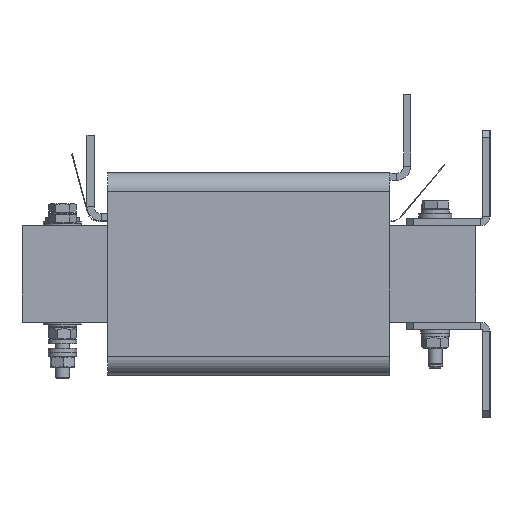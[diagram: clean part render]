
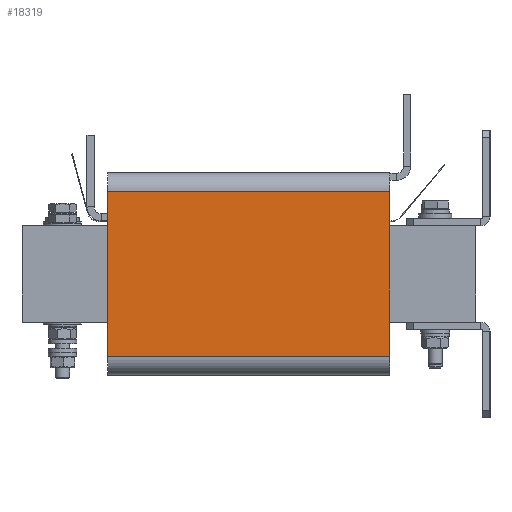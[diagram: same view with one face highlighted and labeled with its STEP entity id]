
A CAD part, left-side view. The second image highlights one B-rep face of the part: STEP entity #18319.
In plain terms, the highlighted planar face has unit normal (-1, 0, 0).
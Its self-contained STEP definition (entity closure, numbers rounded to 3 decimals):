
#1556=LINE('',#28260,#3100);
#1564=LINE('',#28285,#3108);
#1580=LINE('',#28334,#3124);
#1581=LINE('',#28336,#3125);
#3100=VECTOR('',#22990,10.);
#3108=VECTOR('',#23008,10.);
#3124=VECTOR('',#23050,10.);
#3125=VECTOR('',#23053,10.);
#4166=PLANE('',#19669);
#5357=FACE_OUTER_BOUND('',#6595,.T.);
#6595=EDGE_LOOP('',(#14579,#14580,#14581,#14582));
#8590=VERTEX_POINT('',#28257);
#8591=VERTEX_POINT('',#28259);
#8602=VERTEX_POINT('',#28282);
#8603=VERTEX_POINT('',#28284);
#10702=EDGE_CURVE('',#8590,#8591,#1556,.T.);
#10714=EDGE_CURVE('',#8602,#8603,#1564,.T.);
#10740=EDGE_CURVE('',#8603,#8590,#1580,.T.);
#10741=EDGE_CURVE('',#8602,#8591,#1581,.T.);
#14579=ORIENTED_EDGE('',*,*,#10740,.F.);
#14580=ORIENTED_EDGE('',*,*,#10714,.F.);
#14581=ORIENTED_EDGE('',*,*,#10741,.T.);
#14582=ORIENTED_EDGE('',*,*,#10702,.F.);
#18319=ADVANCED_FACE('',(#5357),#4166,.T.);
#19669=AXIS2_PLACEMENT_3D('',#28335,#23051,#23052);
#22990=DIRECTION('',(0.,0.,-1.));
#23008=DIRECTION('',(0.,0.,1.));
#23050=DIRECTION('',(0.,-1.,0.));
#23051=DIRECTION('center_axis',(-1.,0.,0.));
#23052=DIRECTION('ref_axis',(0.,0.,1.));
#23053=DIRECTION('',(0.,-1.,0.));
#28257=CARTESIAN_POINT('',(-119.3,-59.25,34.64));
#28259=CARTESIAN_POINT('',(-119.3,-59.25,-34.64));
#28260=CARTESIAN_POINT('',(-119.3,-59.25,34.64));
#28282=CARTESIAN_POINT('',(-119.3,59.25,-34.64));
#28284=CARTESIAN_POINT('',(-119.3,59.25,34.64));
#28285=CARTESIAN_POINT('',(-119.3,59.25,34.64));
#28334=CARTESIAN_POINT('',(-119.3,0.,34.64));
#28335=CARTESIAN_POINT('Origin',(-119.3,0.,-34.64));
#28336=CARTESIAN_POINT('',(-119.3,0.,-34.64));
